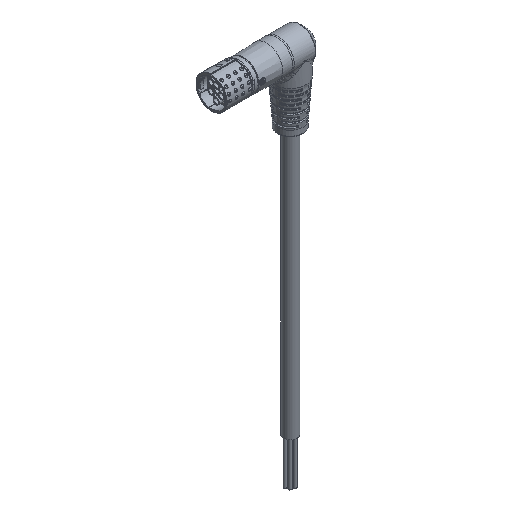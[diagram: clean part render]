
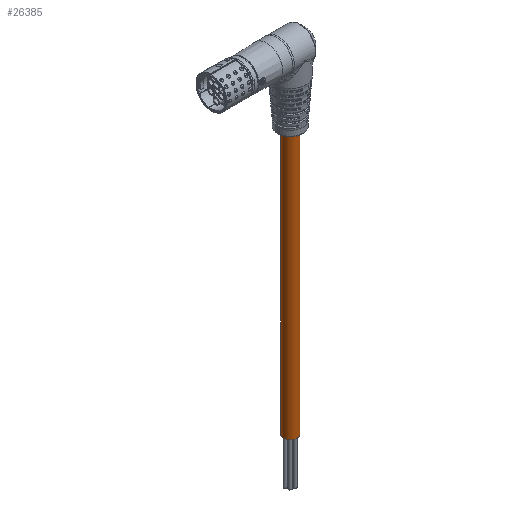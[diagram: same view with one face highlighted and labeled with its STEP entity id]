
A CAD part, isometric view. The second image highlights one B-rep face of the part: STEP entity #26385.
In plain terms, the highlighted cylindrical face has radius 4.55 mm (diameter 9.1 mm), a full revolution.
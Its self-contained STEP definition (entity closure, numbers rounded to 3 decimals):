
#2388 = CARTESIAN_POINT ( 'NONE',  ( -3.327, -3.104, -20.793 ) ) ;
#2846 = FACE_OUTER_BOUND ( 'NONE', #12083, .T. ) ;
#3156 = CIRCLE ( 'NONE', #25716, 4.55 ) ;
#3472 = DIRECTION ( 'NONE',  ( 0., 0., -1. ) ) ;
#3742 = ORIENTED_EDGE ( 'NONE', *, *, #27431, .T. ) ;
#5577 = AXIS2_PLACEMENT_3D ( 'NONE', #33084, #13943, #26335 ) ;
#7169 = AXIS2_PLACEMENT_3D ( 'NONE', #28104, #12323, #19264 ) ;
#8885 = VERTEX_POINT ( 'NONE', #11651 ) ;
#11651 = CARTESIAN_POINT ( 'NONE',  ( 3.327, 3.104, -202.398 ) ) ;
#12083 = EDGE_LOOP ( 'NONE', ( #3742 ) ) ;
#12323 = DIRECTION ( 'NONE',  ( 0., 0., -1. ) ) ;
#13568 = CARTESIAN_POINT ( 'NONE',  ( 0., 0., -20.793 ) ) ;
#13943 = DIRECTION ( 'NONE',  ( 0., 0., -1. ) ) ;
#15281 = CYLINDRICAL_SURFACE ( 'NONE', #7169, 4.55 ) ;
#16641 = EDGE_LOOP ( 'NONE', ( #34757 ) ) ;
#19264 = DIRECTION ( 'NONE',  ( 0.731, 0.682, 0. ) ) ;
#23720 = CIRCLE ( 'NONE', #5577, 4.55 ) ;
#25716 = AXIS2_PLACEMENT_3D ( 'NONE', #13568, #3472, #32496 ) ;
#26335 = DIRECTION ( 'NONE',  ( 0.731, 0.682, 0. ) ) ;
#26385 = ADVANCED_FACE ( 'NONE', ( #38399, #2846 ), #15281, .T. ) ;
#27431 = EDGE_CURVE ( 'NONE', #28060, #28060, #3156, .T. ) ;
#28060 = VERTEX_POINT ( 'NONE', #2388 ) ;
#28104 = CARTESIAN_POINT ( 'NONE',  ( 0., 0., -17.291 ) ) ;
#28762 = EDGE_CURVE ( 'NONE', #8885, #8885, #23720, .T. ) ;
#32496 = DIRECTION ( 'NONE',  ( -0.731, -0.682, 0. ) ) ;
#33084 = CARTESIAN_POINT ( 'NONE',  ( 0., 0., -202.398 ) ) ;
#34757 = ORIENTED_EDGE ( 'NONE', *, *, #28762, .F. ) ;
#38399 = FACE_OUTER_BOUND ( 'NONE', #16641, .T. ) ;
